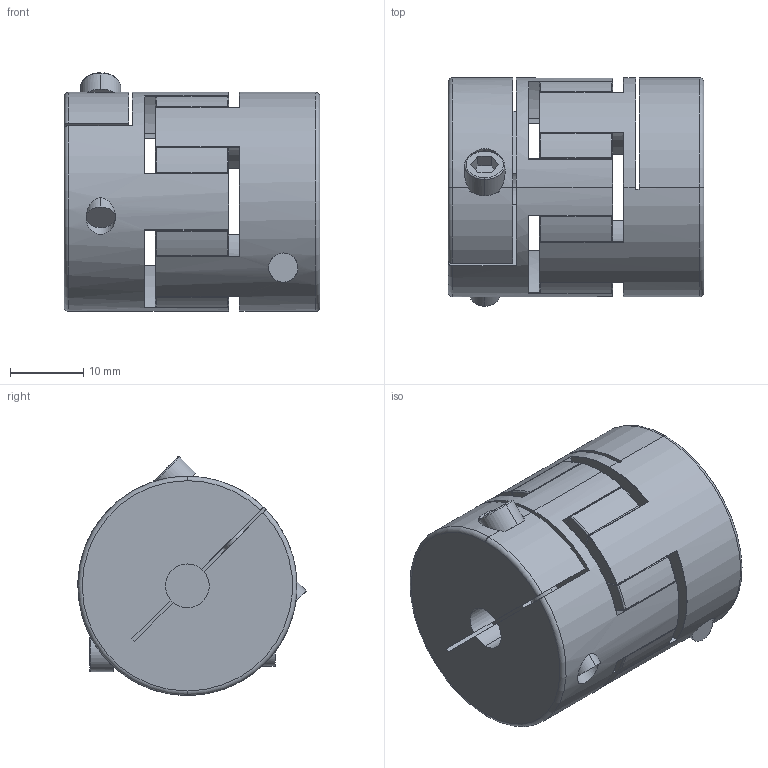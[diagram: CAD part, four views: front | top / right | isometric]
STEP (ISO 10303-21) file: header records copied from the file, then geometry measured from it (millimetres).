
FILE_DESCRIPTION (( 'STEP AP203' ), '1' );
FILE_NAME ('JM30CRD-6-6.STEP', '2021-01-27T09:20:52', ( '微软用户' ), ( '微软中国' ), 'SwSTEP 2.0', 'SolidWorks 2016', '' );
FILE_SCHEMA (( 'CONFIG_CONTROL_DESIGN' ));
Length unit declared in the file: millimetre
Products named in the file (1): JM30CRD-6-6
Bounding box: 35 x 31.26 x 32.7 mm (x, y, z)
Volume: 20606.8 mm3; surface area: 9916.3 mm2
Topology: 1 solids, 1 shells, 407 faces, 996 edges, 560 vertices
Faces by surface type: torus 151, cylinder 128, sphere 60, plane 52, bspline 16
Entity records: 13074 total; most frequent: CARTESIAN_POINT 3567, DIRECTION 2231, ORIENTED_EDGE 1896, AXIS2_PLACEMENT_3D 1002, EDGE_CURVE 948, CIRCLE 610, VERTEX_POINT 536, EDGE_LOOP 420
